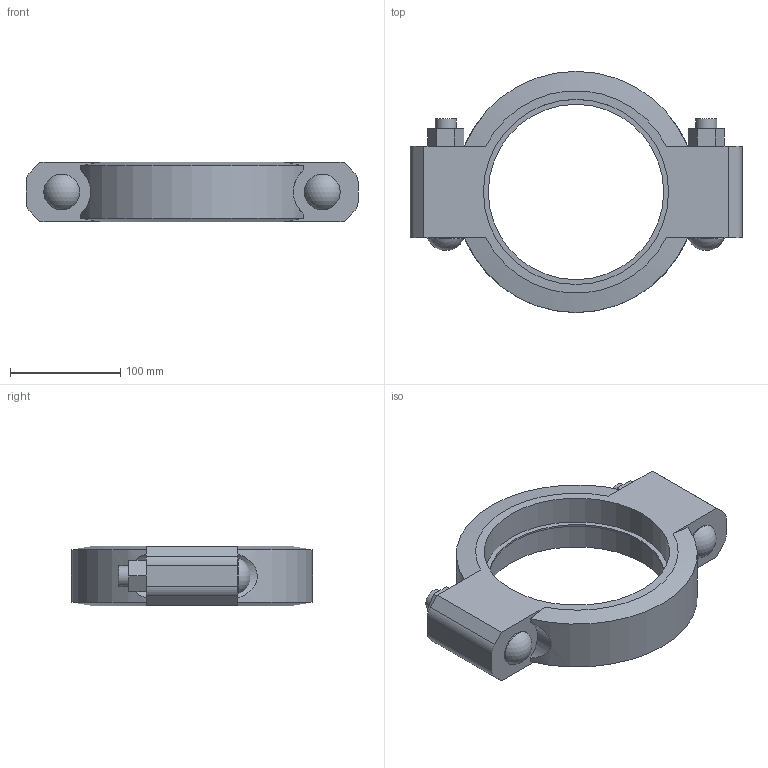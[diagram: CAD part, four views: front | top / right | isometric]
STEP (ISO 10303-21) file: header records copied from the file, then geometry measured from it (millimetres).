
FILE_DESCRIPTION(/* description */ ('Victaulic Standard Flexible Coupling Style 77','CAx-IF Rec.Pracs.---Representation and Presentation of Product Manufacturing Information (PMI)---4.0---2014-10-13'),/* implementation_level */ '2;1');
FILE_NAME(/* name */ 'C:\Users\Vjadhav\Desktop\CAD for Inventor\1\Coupling bolt thickness\77\Victaulic_IPS_Coupling Flexible_Style 77 (OGS)\Victaulic_IPS_Coupling Flexible_Style 77 (OGS)_6 (150).stp',/* time_stamp */ '2022-03-24T18:20:25+06:00',/* author */ ('CONSTRUCTION PIPING SERVICES'),/* organization */ ('Victaulic'),/* preprocessor_version */ 'ST-DEVELOPER v17.2',/* originating_system */ 'Autodesk Inventor 2019',/* authorisation */ '');
FILE_SCHEMA (('AP242_MANAGED_MODEL_BASED_3D_ENGINEERING_MIM_LF { 1 0 10303 442 1 1 4 }'));
Length unit declared in the file: inch
Products named in the file (1): 077-06.0
Bounding box: 301.75 x 219.2 x 54.1 mm (x, y, z)
Volume: 1201840.2 mm3; surface area: 147702.1 mm2
Topology: 1 solids, 3 shells, 61 faces, 142 edges, 95 vertices
Faces by surface type: plane 34, cylinder 21, cone 4, sphere 2
Full cylindrical faces by diameter (mm): 19.05 x4, 21.209 x2, 32.537 x2, 159.385 x1, 168.275 x2
Entity records: 2075 total; most frequent: CARTESIAN_POINT 448, DIRECTION 323, ORIENTED_EDGE 284, EDGE_CURVE 142, AXIS2_PLACEMENT_3D 118, VERTEX_POINT 95, LINE 87, VECTOR 87
